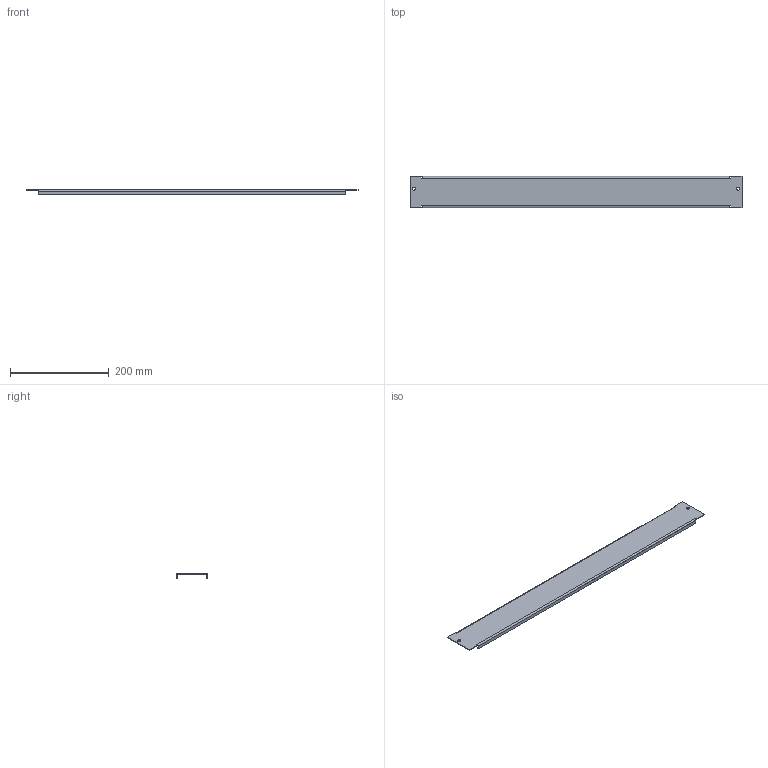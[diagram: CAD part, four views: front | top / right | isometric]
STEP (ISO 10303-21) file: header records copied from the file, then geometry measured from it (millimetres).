
FILE_DESCRIPTION(('STEP AP203'), '1');
FILE_NAME('Ïëàñòðîíû êîìïåíñàöèîííûå ãëóõèå 65õ800 ìì OptiBox M (2 øò) 419560 ÊÝÀÇ', '', ('UNSPECIFIED'), ('UNSPECIFIED'), 'C3D Converter', 'C3D Toolkit', '');
FILE_SCHEMA(('CONFIG_CONTROL_DESIGN'));
Length unit declared in the file: millimetre
Bounding box: 672 x 63 x 10 mm (x, y, z)
Volume: 72256.3 mm3; surface area: 105414.7 mm2
Topology: 1 solids, 1 shells, 36 faces, 86 edges, 52 vertices
Faces by surface type: plane 30, cylinder 6
Full cylindrical faces by diameter (mm): 6.3 x2
Entity records: 1052 total; most frequent: CARTESIAN_POINT 173, DIRECTION 170, ORIENTED_EDGE 168, EDGE_CURVE 84, LINE 72, VECTOR 72, VERTEX_POINT 52, AXIS2_PLACEMENT_3D 49
